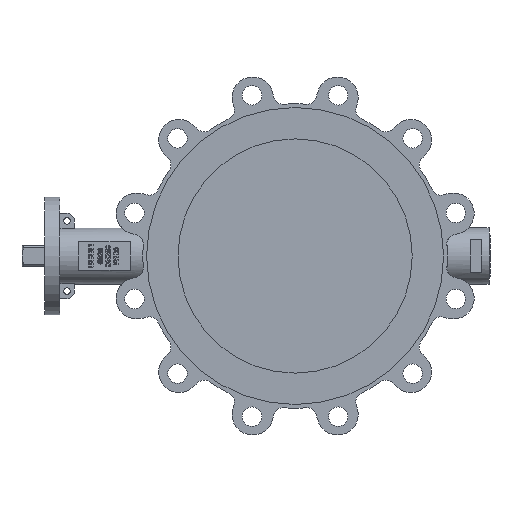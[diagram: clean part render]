
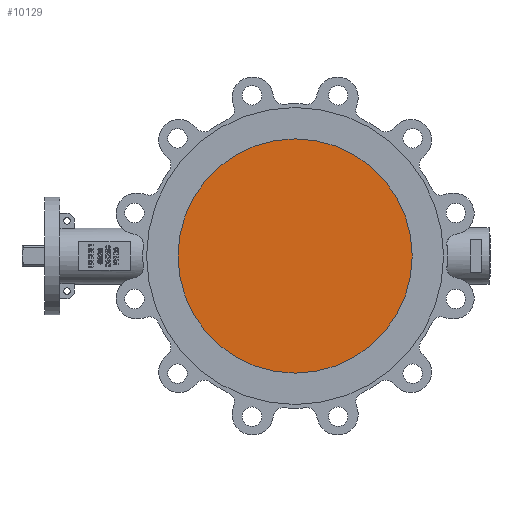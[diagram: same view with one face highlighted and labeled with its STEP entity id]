
A CAD part, left-side view. The second image highlights one B-rep face of the part: STEP entity #10129.
In plain terms, the highlighted planar face has unit normal (-1, 0, 0).
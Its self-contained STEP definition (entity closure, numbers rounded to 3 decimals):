
#469=PLANE('',#10752);
#1263=FACE_OUTER_BOUND('',#1850,.T.);
#1850=EDGE_LOOP('',(#8731));
#3838=CIRCLE('',#10751,125.);
#4747=VERTEX_POINT('',#18051);
#6105=EDGE_CURVE('',#4747,#4747,#3838,.T.);
#8731=ORIENTED_EDGE('',*,*,#6105,.F.);
#10129=ADVANCED_FACE('',(#1263),#469,.F.);
#10751=AXIS2_PLACEMENT_3D('',#18053,#12719,#12720);
#10752=AXIS2_PLACEMENT_3D('',#18054,#12721,#12722);
#12719=DIRECTION('center_axis',(1.,0.,0.));
#12720=DIRECTION('ref_axis',(0.,0.,-1.));
#12721=DIRECTION('center_axis',(1.,0.,0.));
#12722=DIRECTION('ref_axis',(0.,0.,-1.));
#18051=CARTESIAN_POINT('',(-20.968,-42.121,125.));
#18053=CARTESIAN_POINT('Origin',(-20.968,-42.121,0.));
#18054=CARTESIAN_POINT('Origin',(-20.968,-42.121,0.));
